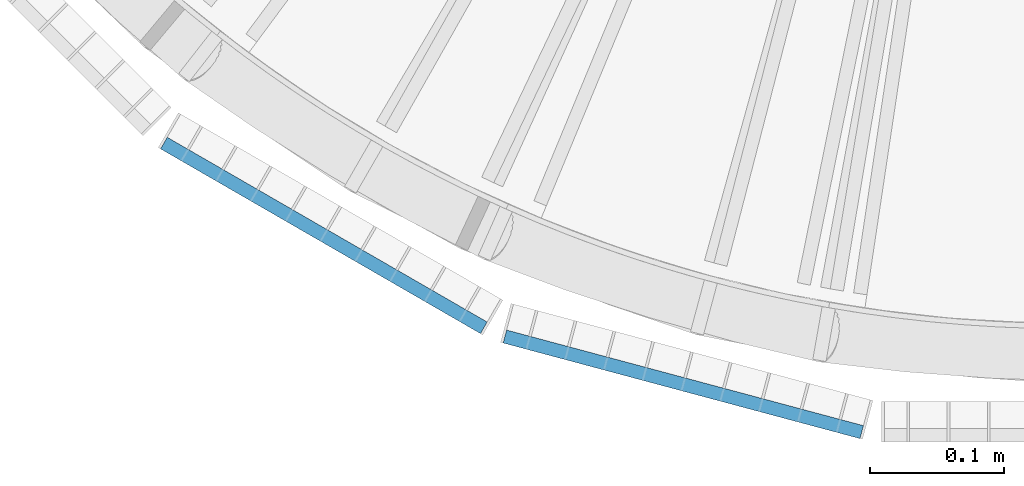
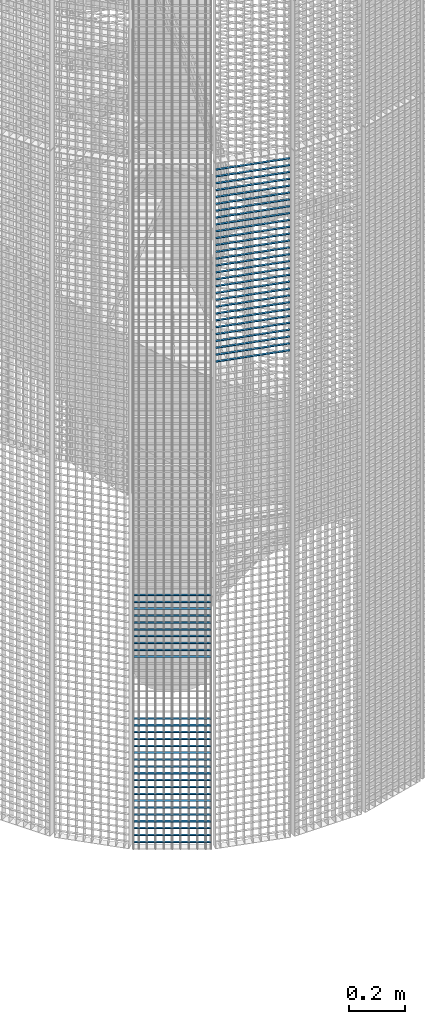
# One storey, part 385 of 1183: 58 beams, 2 elements without a shape of their own.
"""IFC2X3 building model written with IfcOpenShell, lengths in millimetres."""

from ifc_helpers import new_model, si_unit, frame, origin_with_axes, origin_2d_with_axis, place, context, subcontext, project, spatial, rectangle, extrude, material, type_object, element, aggregate, save


model = new_model("IFC2X3")

# Units and contexts
model_context = context("Model", 3, precision=1e-05, world=origin_with_axes())
body_context = subcontext(model_context, "Body", "Model", "MODEL_VIEW")
ifc_project = project(units=[si_unit("LENGTHUNIT", "METRE", prefix="MILLI"), si_unit("AREAUNIT", "SQUARE_METRE"), si_unit("VOLUMEUNIT", "CUBIC_METRE"), si_unit("MASSUNIT", "GRAM", prefix="KILO"), si_unit("TIMEUNIT", "SECOND"), si_unit("PLANEANGLEUNIT", "RADIAN"), si_unit("SOLIDANGLEUNIT", "STERADIAN"), si_unit("THERMODYNAMICTEMPERATUREUNIT", "DEGREE_CELSIUS"), si_unit("LUMINOUSINTENSITYUNIT", "LUMEN")], contexts=[model_context])

# Site, building, storey
site_placement = place(None, origin_with_axes())
site = spatial("IfcSite", under=ifc_project, at=site_placement, Name="Undefined", CompositionType="ELEMENT")
building_placement = place(site_placement, origin_with_axes())
building = spatial("IfcBuilding", under=site, at=building_placement, Name="Undefined", CompositionType="ELEMENT")
storey_placement = place(building_placement, origin_with_axes())
storey = spatial("IfcBuildingStorey", under=building, at=storey_placement, Name="Undefined", CompositionType="ELEMENT", Elevation=0.0)

# Assembly, beams
assembly_1_placement = place(storey_placement, origin_with_axes())
assembly_1 = element("IfcElementAssembly", 1, at=assembly_1_placement, inside=storey, Name="BORDURE", AssemblyPlace="NOTDEFINED", PredefinedType="NOTDEFINED")
ifc_material = material(Name="STEEL/S235JR")
beam_type = type_object("IfcBeamType", Name="PL2*10", PredefinedType="NOTDEFINED")
beam_1_placement = place(assembly_1_placement, frame((21162.7680445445, -1033.29996828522, 569.999999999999), z_axis=(-0.49999999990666, -0.866025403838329, 0.0), x_axis=(-0.866025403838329, 0.499999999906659, 0.0)))
beam_1 = element("IfcBeam", 2, at=beam_1_placement, type_object=beam_type, material=ifc_material, Name="ENTRETOISE", context=body_context, shape_type="SweptSolid", body=[
    extrude(rectangle(XDim=2.0, YDim=10.0, at=origin_2d_with_axis()), frame((275.999999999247, 9.09494701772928e-13, 1.53210777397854e-14), z_axis=(-1.0, 0.0, 0.0), x_axis=(0.0, -1.0, 0.0)), (0.0, 0.0, 1.0), 276.0),
])
beam_2_placement = place(assembly_1_placement, frame((21162.7680445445, -1033.29996828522, 539.999999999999), z_axis=(-0.49999999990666, -0.866025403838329, 0.0), x_axis=(-0.866025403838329, 0.499999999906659, 0.0)))
beam_2 = element("IfcBeam", 3, at=beam_2_placement, type_object=beam_type, material=ifc_material, Name="ENTRETOISE", context=body_context, shape_type="SweptSolid", body=[
    extrude(rectangle(XDim=2.0, YDim=10.0, at=origin_2d_with_axis()), frame((275.999999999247, 9.09494701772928e-13, 1.53210777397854e-14), z_axis=(-1.0, 0.0, 0.0), x_axis=(0.0, -1.0, 0.0)), (0.0, 0.0, 1.0), 276.0),
])
beam_3_placement = place(assembly_1_placement, frame((21162.7680445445, -1033.29996828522, 839.999999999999), z_axis=(-0.49999999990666, -0.866025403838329, 0.0), x_axis=(-0.866025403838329, 0.499999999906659, 0.0)))
beam_3 = element("IfcBeam", 4, at=beam_3_placement, type_object=beam_type, material=ifc_material, Name="ENTRETOISE", context=body_context, shape_type="SweptSolid", body=[
    extrude(rectangle(XDim=2.0, YDim=10.0, at=origin_2d_with_axis()), frame((275.999999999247, 9.09494701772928e-13, 1.53210777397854e-14), z_axis=(-1.0, 0.0, 0.0), x_axis=(0.0, -1.0, 0.0)), (0.0, 0.0, 1.0), 276.0),
])
beam_4_placement = place(assembly_1_placement, frame((21162.7680445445, -1033.29996828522, 509.999999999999), z_axis=(-0.49999999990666, -0.866025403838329, 0.0), x_axis=(-0.866025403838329, 0.499999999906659, 0.0)))
beam_4 = element("IfcBeam", 5, at=beam_4_placement, type_object=beam_type, material=ifc_material, Name="ENTRETOISE", context=body_context, shape_type="SweptSolid", body=[
    extrude(rectangle(XDim=2.0, YDim=10.0, at=origin_2d_with_axis()), frame((275.999999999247, 9.09494701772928e-13, 1.53210777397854e-14), z_axis=(-1.0, 0.0, 0.0), x_axis=(0.0, -1.0, 0.0)), (0.0, 0.0, 1.0), 276.0),
])
beam_5_placement = place(assembly_1_placement, frame((21162.7680445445, -1033.29996828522, 479.999999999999), z_axis=(-0.49999999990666, -0.866025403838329, 0.0), x_axis=(-0.866025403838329, 0.499999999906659, 0.0)))
beam_5 = element("IfcBeam", 6, at=beam_5_placement, type_object=beam_type, material=ifc_material, Name="ENTRETOISE", context=body_context, shape_type="SweptSolid", body=[
    extrude(rectangle(XDim=2.0, YDim=10.0, at=origin_2d_with_axis()), frame((275.999999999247, 9.09494701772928e-13, 1.53210777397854e-14), z_axis=(-1.0, 0.0, 0.0), x_axis=(0.0, -1.0, 0.0)), (0.0, 0.0, 1.0), 276.0),
])
beam_6_placement = place(assembly_1_placement, frame((21162.7680445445, -1033.29996828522, 869.999999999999), z_axis=(-0.49999999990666, -0.866025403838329, 0.0), x_axis=(-0.866025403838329, 0.499999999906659, 0.0)))
beam_6 = element("IfcBeam", 7, at=beam_6_placement, type_object=beam_type, material=ifc_material, Name="ENTRETOISE", context=body_context, shape_type="SweptSolid", body=[
    extrude(rectangle(XDim=2.0, YDim=10.0, at=origin_2d_with_axis()), frame((275.999999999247, 9.09494701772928e-13, 1.53210777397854e-14), z_axis=(-1.0, 0.0, 0.0), x_axis=(0.0, -1.0, 0.0)), (0.0, 0.0, 1.0), 276.0),
])
beam_7_placement = place(assembly_1_placement, frame((21162.7680445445, -1033.29996828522, 449.999999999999), z_axis=(-0.49999999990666, -0.866025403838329, 0.0), x_axis=(-0.866025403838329, 0.499999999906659, 0.0)))
beam_7 = element("IfcBeam", 8, at=beam_7_placement, type_object=beam_type, material=ifc_material, Name="ENTRETOISE", context=body_context, shape_type="SweptSolid", body=[
    extrude(rectangle(XDim=2.0, YDim=10.0, at=origin_2d_with_axis()), frame((275.999999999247, 9.09494701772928e-13, 1.53210777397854e-14), z_axis=(-1.0, 0.0, 0.0), x_axis=(0.0, -1.0, 0.0)), (0.0, 0.0, 1.0), 276.0),
])
beam_8_placement = place(assembly_1_placement, frame((21162.7680445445, -1033.29996828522, 419.999999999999), z_axis=(-0.49999999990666, -0.866025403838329, 0.0), x_axis=(-0.866025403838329, 0.499999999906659, 0.0)))
beam_8 = element("IfcBeam", 9, at=beam_8_placement, type_object=beam_type, material=ifc_material, Name="ENTRETOISE", context=body_context, shape_type="SweptSolid", body=[
    extrude(rectangle(XDim=2.0, YDim=10.0, at=origin_2d_with_axis()), frame((275.999999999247, 9.09494701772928e-13, 1.53210777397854e-14), z_axis=(-1.0, 0.0, 0.0), x_axis=(0.0, -1.0, 0.0)), (0.0, 0.0, 1.0), 276.0),
])
beam_9_placement = place(assembly_1_placement, frame((21162.7680445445, -1033.29996828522, 899.999999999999), z_axis=(-0.49999999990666, -0.866025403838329, 0.0), x_axis=(-0.866025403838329, 0.499999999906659, 0.0)))
beam_9 = element("IfcBeam", 10, at=beam_9_placement, type_object=beam_type, material=ifc_material, Name="ENTRETOISE", context=body_context, shape_type="SweptSolid", body=[
    extrude(rectangle(XDim=2.0, YDim=10.0, at=origin_2d_with_axis()), frame((275.999999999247, 9.09494701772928e-13, 1.53210777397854e-14), z_axis=(-1.0, 0.0, 0.0), x_axis=(0.0, -1.0, 0.0)), (0.0, 0.0, 1.0), 276.0),
])
beam_10_placement = place(assembly_1_placement, frame((21162.7680445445, -1033.29996828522, 389.999999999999), z_axis=(-0.49999999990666, -0.866025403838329, 0.0), x_axis=(-0.866025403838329, 0.499999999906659, 0.0)))
beam_10 = element("IfcBeam", 11, at=beam_10_placement, type_object=beam_type, material=ifc_material, Name="ENTRETOISE", context=body_context, shape_type="SweptSolid", body=[
    extrude(rectangle(XDim=2.0, YDim=10.0, at=origin_2d_with_axis()), frame((275.999999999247, 9.09494701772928e-13, 1.53210777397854e-14), z_axis=(-1.0, 0.0, 0.0), x_axis=(0.0, -1.0, 0.0)), (0.0, 0.0, 1.0), 276.0),
])
beam_11_placement = place(assembly_1_placement, frame((21162.7680445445, -1033.29996828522, 929.999999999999), z_axis=(-0.49999999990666, -0.866025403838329, 0.0), x_axis=(-0.866025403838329, 0.499999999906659, 0.0)))
beam_11 = element("IfcBeam", 12, at=beam_11_placement, type_object=beam_type, material=ifc_material, Name="ENTRETOISE", context=body_context, shape_type="SweptSolid", body=[
    extrude(rectangle(XDim=2.0, YDim=10.0, at=origin_2d_with_axis()), frame((275.999999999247, 9.09494701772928e-13, 1.53210777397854e-14), z_axis=(-1.0, 0.0, 0.0), x_axis=(0.0, -1.0, 0.0)), (0.0, 0.0, 1.0), 276.0),
])
beam_12_placement = place(assembly_1_placement, frame((21162.7680445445, -1033.29996828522, 359.999999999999), z_axis=(-0.49999999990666, -0.866025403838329, 0.0), x_axis=(-0.866025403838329, 0.499999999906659, 0.0)))
beam_12 = element("IfcBeam", 13, at=beam_12_placement, type_object=beam_type, material=ifc_material, Name="ENTRETOISE", context=body_context, shape_type="SweptSolid", body=[
    extrude(rectangle(XDim=2.0, YDim=10.0, at=origin_2d_with_axis()), frame((275.999999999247, 9.09494701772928e-13, 1.53210777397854e-14), z_axis=(-1.0, 0.0, 0.0), x_axis=(0.0, -1.0, 0.0)), (0.0, 0.0, 1.0), 276.0),
])
beam_13_placement = place(assembly_1_placement, frame((21162.7680445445, -1033.29996828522, 329.999999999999), z_axis=(-0.49999999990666, -0.866025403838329, 0.0), x_axis=(-0.866025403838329, 0.499999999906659, 0.0)))
beam_13 = element("IfcBeam", 14, at=beam_13_placement, type_object=beam_type, material=ifc_material, Name="ENTRETOISE", context=body_context, shape_type="SweptSolid", body=[
    extrude(rectangle(XDim=2.0, YDim=10.0, at=origin_2d_with_axis()), frame((275.999999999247, 9.09494701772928e-13, 1.53210777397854e-14), z_axis=(-1.0, 0.0, 0.0), x_axis=(0.0, -1.0, 0.0)), (0.0, 0.0, 1.0), 276.0),
])
beam_14_placement = place(assembly_1_placement, frame((21162.7680445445, -1033.29996828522, 959.999999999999), z_axis=(-0.49999999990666, -0.866025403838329, 0.0), x_axis=(-0.866025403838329, 0.499999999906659, 0.0)))
beam_14 = element("IfcBeam", 15, at=beam_14_placement, type_object=beam_type, material=ifc_material, Name="ENTRETOISE", context=body_context, shape_type="SweptSolid", body=[
    extrude(rectangle(XDim=2.0, YDim=10.0, at=origin_2d_with_axis()), frame((275.999999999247, 9.09494701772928e-13, 1.53210777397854e-14), z_axis=(-1.0, 0.0, 0.0), x_axis=(0.0, -1.0, 0.0)), (0.0, 0.0, 1.0), 276.0),
])
beam_15_placement = place(assembly_1_placement, frame((21162.7680445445, -1033.29996828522, 299.999999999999), z_axis=(-0.49999999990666, -0.866025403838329, 0.0), x_axis=(-0.866025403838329, 0.499999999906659, 0.0)))
beam_15 = element("IfcBeam", 16, at=beam_15_placement, type_object=beam_type, material=ifc_material, Name="ENTRETOISE", context=body_context, shape_type="SweptSolid", body=[
    extrude(rectangle(XDim=2.0, YDim=10.0, at=origin_2d_with_axis()), frame((275.999999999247, 9.09494701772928e-13, 1.53210777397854e-14), z_axis=(-1.0, 0.0, 0.0), x_axis=(0.0, -1.0, 0.0)), (0.0, 0.0, 1.0), 276.0),
])
beam_16_placement = place(assembly_1_placement, frame((21162.7680445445, -1033.29996828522, 269.999999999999), z_axis=(-0.49999999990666, -0.866025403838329, 0.0), x_axis=(-0.866025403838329, 0.499999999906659, 0.0)))
beam_16 = element("IfcBeam", 17, at=beam_16_placement, type_object=beam_type, material=ifc_material, Name="ENTRETOISE", context=body_context, shape_type="SweptSolid", body=[
    extrude(rectangle(XDim=2.0, YDim=10.0, at=origin_2d_with_axis()), frame((275.999999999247, 9.09494701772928e-13, 1.53210777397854e-14), z_axis=(-1.0, 0.0, 0.0), x_axis=(0.0, -1.0, 0.0)), (0.0, 0.0, 1.0), 276.0),
])
beam_17_placement = place(assembly_1_placement, frame((21162.7680445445, -1033.29996828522, 989.999999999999), z_axis=(-0.49999999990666, -0.866025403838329, 0.0), x_axis=(-0.866025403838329, 0.499999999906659, 0.0)))
beam_17 = element("IfcBeam", 18, at=beam_17_placement, type_object=beam_type, material=ifc_material, Name="ENTRETOISE", context=body_context, shape_type="SweptSolid", body=[
    extrude(rectangle(XDim=2.0, YDim=10.0, at=origin_2d_with_axis()), frame((275.999999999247, 9.09494701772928e-13, 1.53210777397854e-14), z_axis=(-1.0, 0.0, 0.0), x_axis=(0.0, -1.0, 0.0)), (0.0, 0.0, 1.0), 276.0),
])
beam_18_placement = place(assembly_1_placement, frame((21162.7680445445, -1033.29996828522, 239.999999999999), z_axis=(-0.49999999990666, -0.866025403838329, 0.0), x_axis=(-0.866025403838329, 0.499999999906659, 0.0)))
beam_18 = element("IfcBeam", 19, at=beam_18_placement, type_object=beam_type, material=ifc_material, Name="ENTRETOISE", context=body_context, shape_type="SweptSolid", body=[
    extrude(rectangle(XDim=2.0, YDim=10.0, at=origin_2d_with_axis()), frame((275.999999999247, 9.09494701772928e-13, 1.53210777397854e-14), z_axis=(-1.0, 0.0, 0.0), x_axis=(0.0, -1.0, 0.0)), (0.0, 0.0, 1.0), 276.0),
])
beam_19_placement = place(assembly_1_placement, frame((21162.7680445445, -1033.29996828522, 1020.0), z_axis=(-0.49999999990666, -0.866025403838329, 0.0), x_axis=(-0.866025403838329, 0.499999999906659, 0.0)))
beam_19 = element("IfcBeam", 20, at=beam_19_placement, type_object=beam_type, material=ifc_material, Name="ENTRETOISE", context=body_context, shape_type="SweptSolid", body=[
    extrude(rectangle(XDim=2.0, YDim=10.0, at=origin_2d_with_axis()), frame((275.999999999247, 9.09494701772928e-13, 1.53210777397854e-14), z_axis=(-1.0, 0.0, 0.0), x_axis=(0.0, -1.0, 0.0)), (0.0, 0.0, 1.0), 276.0),
])
beam_20_placement = place(assembly_1_placement, frame((21162.7680445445, -1033.29996828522, 209.999999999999), z_axis=(-0.49999999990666, -0.866025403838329, 0.0), x_axis=(-0.866025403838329, 0.499999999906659, 0.0)))
beam_20 = element("IfcBeam", 21, at=beam_20_placement, type_object=beam_type, material=ifc_material, Name="ENTRETOISE", context=body_context, shape_type="SweptSolid", body=[
    extrude(rectangle(XDim=2.0, YDim=10.0, at=origin_2d_with_axis()), frame((275.999999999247, 9.09494701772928e-13, 1.53210777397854e-14), z_axis=(-1.0, 0.0, 0.0), x_axis=(0.0, -1.0, 0.0)), (0.0, 0.0, 1.0), 276.0),
])
beam_21_placement = place(assembly_1_placement, frame((21162.7680445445, -1033.29996828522, 179.999999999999), z_axis=(-0.49999999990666, -0.866025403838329, 0.0), x_axis=(-0.866025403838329, 0.499999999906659, 0.0)))
beam_21 = element("IfcBeam", 22, at=beam_21_placement, type_object=beam_type, material=ifc_material, Name="ENTRETOISE", context=body_context, shape_type="SweptSolid", body=[
    extrude(rectangle(XDim=2.0, YDim=10.0, at=origin_2d_with_axis()), frame((275.999999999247, 9.09494701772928e-13, 1.53210777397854e-14), z_axis=(-1.0, 0.0, 0.0), x_axis=(0.0, -1.0, 0.0)), (0.0, 0.0, 1.0), 276.0),
])
beam_22_placement = place(assembly_1_placement, frame((21162.7680445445, -1033.29996828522, 1050.0), z_axis=(-0.49999999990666, -0.866025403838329, 0.0), x_axis=(-0.866025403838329, 0.499999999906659, 0.0)))
beam_22 = element("IfcBeam", 23, at=beam_22_placement, type_object=beam_type, material=ifc_material, Name="ENTRETOISE", context=body_context, shape_type="SweptSolid", body=[
    extrude(rectangle(XDim=2.0, YDim=10.0, at=origin_2d_with_axis()), frame((275.999999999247, 9.09494701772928e-13, 1.53210777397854e-14), z_axis=(-1.0, 0.0, 0.0), x_axis=(0.0, -1.0, 0.0)), (0.0, 0.0, 1.0), 276.0),
])
beam_23_placement = place(assembly_1_placement, frame((21162.7680445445, -1033.29996828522, 149.999999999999), z_axis=(-0.49999999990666, -0.866025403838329, 0.0), x_axis=(-0.866025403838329, 0.499999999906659, 0.0)))
beam_23 = element("IfcBeam", 24, at=beam_23_placement, type_object=beam_type, material=ifc_material, Name="ENTRETOISE", context=body_context, shape_type="SweptSolid", body=[
    extrude(rectangle(XDim=2.0, YDim=10.0, at=origin_2d_with_axis()), frame((275.999999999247, 9.09494701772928e-13, 1.53210777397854e-14), z_axis=(-1.0, 0.0, 0.0), x_axis=(0.0, -1.0, 0.0)), (0.0, 0.0, 1.0), 276.0),
])
beam_24_placement = place(assembly_1_placement, frame((21162.7680445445, -1033.29996828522, 119.999999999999), z_axis=(-0.49999999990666, -0.866025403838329, 0.0), x_axis=(-0.866025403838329, 0.499999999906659, 0.0)))
beam_24 = element("IfcBeam", 25, at=beam_24_placement, type_object=beam_type, material=ifc_material, Name="ENTRETOISE", context=body_context, shape_type="SweptSolid", body=[
    extrude(rectangle(XDim=2.0, YDim=10.0, at=origin_2d_with_axis()), frame((275.999999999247, 9.09494701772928e-13, 1.53210777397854e-14), z_axis=(-1.0, 0.0, 0.0), x_axis=(0.0, -1.0, 0.0)), (0.0, 0.0, 1.0), 276.0),
])
beam_25_placement = place(assembly_1_placement, frame((21162.7680445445, -1033.29996828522, 1080.0), z_axis=(-0.49999999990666, -0.866025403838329, 0.0), x_axis=(-0.866025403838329, 0.499999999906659, 0.0)))
beam_25 = element("IfcBeam", 26, at=beam_25_placement, type_object=beam_type, material=ifc_material, Name="ENTRETOISE", context=body_context, shape_type="SweptSolid", body=[
    extrude(rectangle(XDim=2.0, YDim=10.0, at=origin_2d_with_axis()), frame((275.999999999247, 9.09494701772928e-13, 1.53210777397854e-14), z_axis=(-1.0, 0.0, 0.0), x_axis=(0.0, -1.0, 0.0)), (0.0, 0.0, 1.0), 276.0),
])
beam_26_placement = place(assembly_1_placement, frame((21162.7680445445, -1033.29996828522, 89.9999999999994), z_axis=(-0.49999999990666, -0.866025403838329, 0.0), x_axis=(-0.866025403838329, 0.499999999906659, 0.0)))
beam_26 = element("IfcBeam", 27, at=beam_26_placement, type_object=beam_type, material=ifc_material, Name="ENTRETOISE", context=body_context, shape_type="SweptSolid", body=[
    extrude(rectangle(XDim=2.0, YDim=10.0, at=origin_2d_with_axis()), frame((275.999999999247, 9.09494701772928e-13, 1.53210777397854e-14), z_axis=(-1.0, 0.0, 0.0), x_axis=(0.0, -1.0, 0.0)), (0.0, 0.0, 1.0), 276.0),
])
beam_27_placement = place(assembly_1_placement, frame((21162.7680445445, -1033.29996828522, 59.9999999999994), z_axis=(-0.49999999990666, -0.866025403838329, 0.0), x_axis=(-0.866025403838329, 0.499999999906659, 0.0)))
beam_27 = element("IfcBeam", 28, at=beam_27_placement, type_object=beam_type, material=ifc_material, Name="ENTRETOISE", context=body_context, shape_type="SweptSolid", body=[
    extrude(rectangle(XDim=2.0, YDim=10.0, at=origin_2d_with_axis()), frame((275.999999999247, 9.09494701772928e-13, 1.53210777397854e-14), z_axis=(-1.0, 0.0, 0.0), x_axis=(0.0, -1.0, 0.0)), (0.0, 0.0, 1.0), 276.0),
])
beam_28_placement = place(assembly_1_placement, frame((21162.7680445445, -1033.29996828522, 1110.0), z_axis=(-0.49999999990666, -0.866025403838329, 0.0), x_axis=(-0.866025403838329, 0.499999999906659, 0.0)))
beam_28 = element("IfcBeam", 29, at=beam_28_placement, type_object=beam_type, material=ifc_material, Name="ENTRETOISE", context=body_context, shape_type="SweptSolid", body=[
    extrude(rectangle(XDim=2.0, YDim=10.0, at=origin_2d_with_axis()), frame((275.999999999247, 9.09494701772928e-13, 1.53210777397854e-14), z_axis=(-1.0, 0.0, 0.0), x_axis=(0.0, -1.0, 0.0)), (0.0, 0.0, 1.0), 276.0),
])
beam_29_placement = place(assembly_1_placement, frame((21162.7680445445, -1033.29996828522, 29.9999999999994), z_axis=(-0.49999999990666, -0.866025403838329, 0.0), x_axis=(-0.866025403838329, 0.499999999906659, 0.0)))
beam_29 = element("IfcBeam", 30, at=beam_29_placement, type_object=beam_type, material=ifc_material, Name="ENTRETOISE", context=body_context, shape_type="SweptSolid", body=[
    extrude(rectangle(XDim=2.0, YDim=10.0, at=origin_2d_with_axis()), frame((275.999999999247, 9.09494701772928e-13, 1.53210777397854e-14), z_axis=(-1.0, 0.0, 0.0), x_axis=(0.0, -1.0, 0.0)), (0.0, 0.0, 1.0), 276.0),
])
aggregate(assembly_1, [beam_1, beam_2, beam_3, beam_4, beam_5, beam_6, beam_7, beam_8, beam_9, beam_10, beam_11, beam_12, beam_13, beam_14, beam_15, beam_16, beam_17, beam_18, beam_19, beam_20, beam_21, beam_22, beam_23, beam_24, beam_25, beam_26, beam_27, beam_28, beam_29])

assembly_2_placement = place(storey_placement, origin_with_axes())
assembly_2 = element("IfcElementAssembly", 31, at=assembly_2_placement, inside=storey, Name="BORDURE", AssemblyPlace="NOTDEFINED", PredefinedType="NOTDEFINED")
beam_30_placement = place(assembly_2_placement, frame((21445.1040732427, -1111.25508286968, 2970.0), z_axis=(-0.258819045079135, -0.965925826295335, 0.0), x_axis=(-0.965925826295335, 0.258819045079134, 0.0)))
beam_30 = element("IfcBeam", 32, at=beam_30_placement, type_object=beam_type, material=ifc_material, Name="ENTRETOISE", context=body_context, shape_type="SweptSolid", body=[
    extrude(rectangle(XDim=2.0, YDim=10.0, at=origin_2d_with_axis()), frame((275.999999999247, 9.09494701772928e-13, 1.53210777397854e-14), z_axis=(-1.0, 0.0, 0.0), x_axis=(0.0, -1.0, 0.0)), (0.0, 0.0, 1.0), 276.0),
])
beam_31_placement = place(assembly_2_placement, frame((21445.1040732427, -1111.25508286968, 2940.0), z_axis=(-0.258819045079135, -0.965925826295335, 0.0), x_axis=(-0.965925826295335, 0.258819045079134, 0.0)))
beam_31 = element("IfcBeam", 33, at=beam_31_placement, type_object=beam_type, material=ifc_material, Name="ENTRETOISE", context=body_context, shape_type="SweptSolid", body=[
    extrude(rectangle(XDim=2.0, YDim=10.0, at=origin_2d_with_axis()), frame((275.999999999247, 9.09494701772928e-13, 1.53210777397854e-14), z_axis=(-1.0, 0.0, 0.0), x_axis=(0.0, -1.0, 0.0)), (0.0, 0.0, 1.0), 276.0),
])
beam_32_placement = place(assembly_2_placement, frame((21445.1040732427, -1111.25508286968, 2910.0), z_axis=(-0.258819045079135, -0.965925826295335, 0.0), x_axis=(-0.965925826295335, 0.258819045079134, 0.0)))
beam_32 = element("IfcBeam", 34, at=beam_32_placement, type_object=beam_type, material=ifc_material, Name="ENTRETOISE", context=body_context, shape_type="SweptSolid", body=[
    extrude(rectangle(XDim=2.0, YDim=10.0, at=origin_2d_with_axis()), frame((275.999999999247, 9.09494701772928e-13, 1.53210777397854e-14), z_axis=(-1.0, 0.0, 0.0), x_axis=(0.0, -1.0, 0.0)), (0.0, 0.0, 1.0), 276.0),
])
beam_33_placement = place(assembly_2_placement, frame((21445.1040732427, -1111.25508286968, 2880.0), z_axis=(-0.258819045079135, -0.965925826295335, 0.0), x_axis=(-0.965925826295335, 0.258819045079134, 0.0)))
beam_33 = element("IfcBeam", 35, at=beam_33_placement, type_object=beam_type, material=ifc_material, Name="ENTRETOISE", context=body_context, shape_type="SweptSolid", body=[
    extrude(rectangle(XDim=2.0, YDim=10.0, at=origin_2d_with_axis()), frame((275.999999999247, 9.09494701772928e-13, 1.53210777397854e-14), z_axis=(-1.0, 0.0, 0.0), x_axis=(0.0, -1.0, 0.0)), (0.0, 0.0, 1.0), 276.0),
])
beam_34_placement = place(assembly_2_placement, frame((21445.1040732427, -1111.25508286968, 2850.0), z_axis=(-0.258819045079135, -0.965925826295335, 0.0), x_axis=(-0.965925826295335, 0.258819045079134, 0.0)))
beam_34 = element("IfcBeam", 36, at=beam_34_placement, type_object=beam_type, material=ifc_material, Name="ENTRETOISE", context=body_context, shape_type="SweptSolid", body=[
    extrude(rectangle(XDim=2.0, YDim=10.0, at=origin_2d_with_axis()), frame((275.999999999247, 9.09494701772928e-13, 1.53210777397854e-14), z_axis=(-1.0, 0.0, 0.0), x_axis=(0.0, -1.0, 0.0)), (0.0, 0.0, 1.0), 276.0),
])
beam_35_placement = place(assembly_2_placement, frame((21445.1040732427, -1111.25508286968, 2820.0), z_axis=(-0.258819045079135, -0.965925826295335, 0.0), x_axis=(-0.965925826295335, 0.258819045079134, 0.0)))
beam_35 = element("IfcBeam", 37, at=beam_35_placement, type_object=beam_type, material=ifc_material, Name="ENTRETOISE", context=body_context, shape_type="SweptSolid", body=[
    extrude(rectangle(XDim=2.0, YDim=10.0, at=origin_2d_with_axis()), frame((275.999999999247, 9.09494701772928e-13, 1.53210777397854e-14), z_axis=(-1.0, 0.0, 0.0), x_axis=(0.0, -1.0, 0.0)), (0.0, 0.0, 1.0), 276.0),
])
beam_36_placement = place(assembly_2_placement, frame((21445.1040732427, -1111.25508286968, 2790.0), z_axis=(-0.258819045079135, -0.965925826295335, 0.0), x_axis=(-0.965925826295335, 0.258819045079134, 0.0)))
beam_36 = element("IfcBeam", 38, at=beam_36_placement, type_object=beam_type, material=ifc_material, Name="ENTRETOISE", context=body_context, shape_type="SweptSolid", body=[
    extrude(rectangle(XDim=2.0, YDim=10.0, at=origin_2d_with_axis()), frame((275.999999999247, 9.09494701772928e-13, 1.53210777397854e-14), z_axis=(-1.0, 0.0, 0.0), x_axis=(0.0, -1.0, 0.0)), (0.0, 0.0, 1.0), 276.0),
])
beam_37_placement = place(assembly_2_placement, frame((21445.1040732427, -1111.25508286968, 2760.0), z_axis=(-0.258819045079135, -0.965925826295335, 0.0), x_axis=(-0.965925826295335, 0.258819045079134, 0.0)))
beam_37 = element("IfcBeam", 39, at=beam_37_placement, type_object=beam_type, material=ifc_material, Name="ENTRETOISE", context=body_context, shape_type="SweptSolid", body=[
    extrude(rectangle(XDim=2.0, YDim=10.0, at=origin_2d_with_axis()), frame((275.999999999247, 9.09494701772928e-13, 1.53210777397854e-14), z_axis=(-1.0, 0.0, 0.0), x_axis=(0.0, -1.0, 0.0)), (0.0, 0.0, 1.0), 276.0),
])
beam_38_placement = place(assembly_2_placement, frame((21445.1040732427, -1111.25508286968, 2730.0), z_axis=(-0.258819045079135, -0.965925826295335, 0.0), x_axis=(-0.965925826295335, 0.258819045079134, 0.0)))
beam_38 = element("IfcBeam", 40, at=beam_38_placement, type_object=beam_type, material=ifc_material, Name="ENTRETOISE", context=body_context, shape_type="SweptSolid", body=[
    extrude(rectangle(XDim=2.0, YDim=10.0, at=origin_2d_with_axis()), frame((275.999999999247, 9.09494701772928e-13, 1.53210777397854e-14), z_axis=(-1.0, 0.0, 0.0), x_axis=(0.0, -1.0, 0.0)), (0.0, 0.0, 1.0), 276.0),
])
beam_39_placement = place(assembly_2_placement, frame((21445.1040732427, -1111.25508286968, 2700.0), z_axis=(-0.258819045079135, -0.965925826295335, 0.0), x_axis=(-0.965925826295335, 0.258819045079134, 0.0)))
beam_39 = element("IfcBeam", 41, at=beam_39_placement, type_object=beam_type, material=ifc_material, Name="ENTRETOISE", context=body_context, shape_type="SweptSolid", body=[
    extrude(rectangle(XDim=2.0, YDim=10.0, at=origin_2d_with_axis()), frame((275.999999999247, 9.09494701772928e-13, 1.53210777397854e-14), z_axis=(-1.0, 0.0, 0.0), x_axis=(0.0, -1.0, 0.0)), (0.0, 0.0, 1.0), 276.0),
])
beam_40_placement = place(assembly_2_placement, frame((21445.1040732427, -1111.25508286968, 2670.0), z_axis=(-0.258819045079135, -0.965925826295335, 0.0), x_axis=(-0.965925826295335, 0.258819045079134, 0.0)))
beam_40 = element("IfcBeam", 42, at=beam_40_placement, type_object=beam_type, material=ifc_material, Name="ENTRETOISE", context=body_context, shape_type="SweptSolid", body=[
    extrude(rectangle(XDim=2.0, YDim=10.0, at=origin_2d_with_axis()), frame((275.999999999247, 9.09494701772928e-13, 1.53210777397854e-14), z_axis=(-1.0, 0.0, 0.0), x_axis=(0.0, -1.0, 0.0)), (0.0, 0.0, 1.0), 276.0),
])
beam_41_placement = place(assembly_2_placement, frame((21445.1040732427, -1111.25508286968, 2640.0), z_axis=(-0.258819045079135, -0.965925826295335, 0.0), x_axis=(-0.965925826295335, 0.258819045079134, 0.0)))
beam_41 = element("IfcBeam", 43, at=beam_41_placement, type_object=beam_type, material=ifc_material, Name="ENTRETOISE", context=body_context, shape_type="SweptSolid", body=[
    extrude(rectangle(XDim=2.0, YDim=10.0, at=origin_2d_with_axis()), frame((275.999999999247, 9.09494701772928e-13, 1.53210777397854e-14), z_axis=(-1.0, 0.0, 0.0), x_axis=(0.0, -1.0, 0.0)), (0.0, 0.0, 1.0), 276.0),
])
beam_42_placement = place(assembly_2_placement, frame((21445.1040732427, -1111.25508286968, 2610.0), z_axis=(-0.258819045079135, -0.965925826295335, 0.0), x_axis=(-0.965925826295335, 0.258819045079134, 0.0)))
beam_42 = element("IfcBeam", 44, at=beam_42_placement, type_object=beam_type, material=ifc_material, Name="ENTRETOISE", context=body_context, shape_type="SweptSolid", body=[
    extrude(rectangle(XDim=2.0, YDim=10.0, at=origin_2d_with_axis()), frame((275.999999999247, 9.09494701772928e-13, 1.53210777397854e-14), z_axis=(-1.0, 0.0, 0.0), x_axis=(0.0, -1.0, 0.0)), (0.0, 0.0, 1.0), 276.0),
])
beam_43_placement = place(assembly_2_placement, frame((21445.1040732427, -1111.25508286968, 2580.0), z_axis=(-0.258819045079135, -0.965925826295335, 0.0), x_axis=(-0.965925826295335, 0.258819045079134, 0.0)))
beam_43 = element("IfcBeam", 45, at=beam_43_placement, type_object=beam_type, material=ifc_material, Name="ENTRETOISE", context=body_context, shape_type="SweptSolid", body=[
    extrude(rectangle(XDim=2.0, YDim=10.0, at=origin_2d_with_axis()), frame((275.999999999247, 9.09494701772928e-13, 1.53210777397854e-14), z_axis=(-1.0, 0.0, 0.0), x_axis=(0.0, -1.0, 0.0)), (0.0, 0.0, 1.0), 276.0),
])
beam_44_placement = place(assembly_2_placement, frame((21445.1040732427, -1111.25508286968, 2550.0), z_axis=(-0.258819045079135, -0.965925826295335, 0.0), x_axis=(-0.965925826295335, 0.258819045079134, 0.0)))
beam_44 = element("IfcBeam", 46, at=beam_44_placement, type_object=beam_type, material=ifc_material, Name="ENTRETOISE", context=body_context, shape_type="SweptSolid", body=[
    extrude(rectangle(XDim=2.0, YDim=10.0, at=origin_2d_with_axis()), frame((275.999999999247, 9.09494701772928e-13, 1.53210777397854e-14), z_axis=(-1.0, 0.0, 0.0), x_axis=(0.0, -1.0, 0.0)), (0.0, 0.0, 1.0), 276.0),
])
beam_45_placement = place(assembly_2_placement, frame((21445.1040732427, -1111.25508286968, 2520.0), z_axis=(-0.258819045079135, -0.965925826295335, 0.0), x_axis=(-0.965925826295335, 0.258819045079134, 0.0)))
beam_45 = element("IfcBeam", 47, at=beam_45_placement, type_object=beam_type, material=ifc_material, Name="ENTRETOISE", context=body_context, shape_type="SweptSolid", body=[
    extrude(rectangle(XDim=2.0, YDim=10.0, at=origin_2d_with_axis()), frame((275.999999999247, 9.09494701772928e-13, 1.53210777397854e-14), z_axis=(-1.0, 0.0, 0.0), x_axis=(0.0, -1.0, 0.0)), (0.0, 0.0, 1.0), 276.0),
])
beam_46_placement = place(assembly_2_placement, frame((21445.1040732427, -1111.25508286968, 2490.0), z_axis=(-0.258819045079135, -0.965925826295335, 0.0), x_axis=(-0.965925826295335, 0.258819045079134, 0.0)))
beam_46 = element("IfcBeam", 48, at=beam_46_placement, type_object=beam_type, material=ifc_material, Name="ENTRETOISE", context=body_context, shape_type="SweptSolid", body=[
    extrude(rectangle(XDim=2.0, YDim=10.0, at=origin_2d_with_axis()), frame((275.999999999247, 9.09494701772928e-13, 1.53210777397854e-14), z_axis=(-1.0, 0.0, 0.0), x_axis=(0.0, -1.0, 0.0)), (0.0, 0.0, 1.0), 276.0),
])
beam_47_placement = place(assembly_2_placement, frame((21445.1040732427, -1111.25508286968, 2460.0), z_axis=(-0.258819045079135, -0.965925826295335, 0.0), x_axis=(-0.965925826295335, 0.258819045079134, 0.0)))
beam_47 = element("IfcBeam", 49, at=beam_47_placement, type_object=beam_type, material=ifc_material, Name="ENTRETOISE", context=body_context, shape_type="SweptSolid", body=[
    extrude(rectangle(XDim=2.0, YDim=10.0, at=origin_2d_with_axis()), frame((275.999999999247, 9.09494701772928e-13, 1.53210777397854e-14), z_axis=(-1.0, 0.0, 0.0), x_axis=(0.0, -1.0, 0.0)), (0.0, 0.0, 1.0), 276.0),
])
beam_48_placement = place(assembly_2_placement, frame((21445.1040732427, -1111.25508286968, 2430.0), z_axis=(-0.258819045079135, -0.965925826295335, 0.0), x_axis=(-0.965925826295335, 0.258819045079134, 0.0)))
beam_48 = element("IfcBeam", 50, at=beam_48_placement, type_object=beam_type, material=ifc_material, Name="ENTRETOISE", context=body_context, shape_type="SweptSolid", body=[
    extrude(rectangle(XDim=2.0, YDim=10.0, at=origin_2d_with_axis()), frame((275.999999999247, 9.09494701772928e-13, 1.53210777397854e-14), z_axis=(-1.0, 0.0, 0.0), x_axis=(0.0, -1.0, 0.0)), (0.0, 0.0, 1.0), 276.0),
])
beam_49_placement = place(assembly_2_placement, frame((21445.1040732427, -1111.25508286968, 2400.0), z_axis=(-0.258819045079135, -0.965925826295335, 0.0), x_axis=(-0.965925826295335, 0.258819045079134, 0.0)))
beam_49 = element("IfcBeam", 51, at=beam_49_placement, type_object=beam_type, material=ifc_material, Name="ENTRETOISE", context=body_context, shape_type="SweptSolid", body=[
    extrude(rectangle(XDim=2.0, YDim=10.0, at=origin_2d_with_axis()), frame((275.999999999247, 9.09494701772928e-13, 1.53210777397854e-14), z_axis=(-1.0, 0.0, 0.0), x_axis=(0.0, -1.0, 0.0)), (0.0, 0.0, 1.0), 276.0),
])
beam_50_placement = place(assembly_2_placement, frame((21445.1040732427, -1111.25508286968, 2370.0), z_axis=(-0.258819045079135, -0.965925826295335, 0.0), x_axis=(-0.965925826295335, 0.258819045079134, 0.0)))
beam_50 = element("IfcBeam", 52, at=beam_50_placement, type_object=beam_type, material=ifc_material, Name="ENTRETOISE", context=body_context, shape_type="SweptSolid", body=[
    extrude(rectangle(XDim=2.0, YDim=10.0, at=origin_2d_with_axis()), frame((275.999999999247, 9.09494701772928e-13, 1.53210777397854e-14), z_axis=(-1.0, 0.0, 0.0), x_axis=(0.0, -1.0, 0.0)), (0.0, 0.0, 1.0), 276.0),
])
beam_51_placement = place(assembly_2_placement, frame((21445.1040732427, -1111.25508286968, 2340.0), z_axis=(-0.258819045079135, -0.965925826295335, 0.0), x_axis=(-0.965925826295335, 0.258819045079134, 0.0)))
beam_51 = element("IfcBeam", 53, at=beam_51_placement, type_object=beam_type, material=ifc_material, Name="ENTRETOISE", context=body_context, shape_type="SweptSolid", body=[
    extrude(rectangle(XDim=2.0, YDim=10.0, at=origin_2d_with_axis()), frame((275.999999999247, 9.09494701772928e-13, 1.53210777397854e-14), z_axis=(-1.0, 0.0, 0.0), x_axis=(0.0, -1.0, 0.0)), (0.0, 0.0, 1.0), 276.0),
])
beam_52_placement = place(assembly_2_placement, frame((21445.1040732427, -1111.25508286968, 2310.0), z_axis=(-0.258819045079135, -0.965925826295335, 0.0), x_axis=(-0.965925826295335, 0.258819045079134, 0.0)))
beam_52 = element("IfcBeam", 54, at=beam_52_placement, type_object=beam_type, material=ifc_material, Name="ENTRETOISE", context=body_context, shape_type="SweptSolid", body=[
    extrude(rectangle(XDim=2.0, YDim=10.0, at=origin_2d_with_axis()), frame((275.999999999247, 9.09494701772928e-13, 1.53210777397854e-14), z_axis=(-1.0, 0.0, 0.0), x_axis=(0.0, -1.0, 0.0)), (0.0, 0.0, 1.0), 276.0),
])
beam_53_placement = place(assembly_2_placement, frame((21445.1040732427, -1111.25508286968, 2280.0), z_axis=(-0.258819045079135, -0.965925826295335, 0.0), x_axis=(-0.965925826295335, 0.258819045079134, 0.0)))
beam_53 = element("IfcBeam", 55, at=beam_53_placement, type_object=beam_type, material=ifc_material, Name="ENTRETOISE", context=body_context, shape_type="SweptSolid", body=[
    extrude(rectangle(XDim=2.0, YDim=10.0, at=origin_2d_with_axis()), frame((275.999999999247, 9.09494701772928e-13, 1.53210777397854e-14), z_axis=(-1.0, 0.0, 0.0), x_axis=(0.0, -1.0, 0.0)), (0.0, 0.0, 1.0), 276.0),
])
beam_54_placement = place(assembly_2_placement, frame((21445.1040732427, -1111.25508286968, 2250.0), z_axis=(-0.258819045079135, -0.965925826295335, 0.0), x_axis=(-0.965925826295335, 0.258819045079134, 0.0)))
beam_54 = element("IfcBeam", 56, at=beam_54_placement, type_object=beam_type, material=ifc_material, Name="ENTRETOISE", context=body_context, shape_type="SweptSolid", body=[
    extrude(rectangle(XDim=2.0, YDim=10.0, at=origin_2d_with_axis()), frame((275.999999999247, 9.09494701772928e-13, 1.53210777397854e-14), z_axis=(-1.0, 0.0, 0.0), x_axis=(0.0, -1.0, 0.0)), (0.0, 0.0, 1.0), 276.0),
])
beam_55_placement = place(assembly_2_placement, frame((21445.1040732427, -1111.25508286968, 2220.0), z_axis=(-0.258819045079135, -0.965925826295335, 0.0), x_axis=(-0.965925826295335, 0.258819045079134, 0.0)))
beam_55 = element("IfcBeam", 57, at=beam_55_placement, type_object=beam_type, material=ifc_material, Name="ENTRETOISE", context=body_context, shape_type="SweptSolid", body=[
    extrude(rectangle(XDim=2.0, YDim=10.0, at=origin_2d_with_axis()), frame((275.999999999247, 9.09494701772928e-13, 1.53210777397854e-14), z_axis=(-1.0, 0.0, 0.0), x_axis=(0.0, -1.0, 0.0)), (0.0, 0.0, 1.0), 276.0),
])
beam_56_placement = place(assembly_2_placement, frame((21445.1040732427, -1111.25508286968, 2190.0), z_axis=(-0.258819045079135, -0.965925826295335, 0.0), x_axis=(-0.965925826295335, 0.258819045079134, 0.0)))
beam_56 = element("IfcBeam", 58, at=beam_56_placement, type_object=beam_type, material=ifc_material, Name="ENTRETOISE", context=body_context, shape_type="SweptSolid", body=[
    extrude(rectangle(XDim=2.0, YDim=10.0, at=origin_2d_with_axis()), frame((275.999999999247, 9.09494701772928e-13, 1.53210777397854e-14), z_axis=(-1.0, 0.0, 0.0), x_axis=(0.0, -1.0, 0.0)), (0.0, 0.0, 1.0), 276.0),
])
beam_57_placement = place(assembly_2_placement, frame((21445.1040732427, -1111.25508286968, 2160.0), z_axis=(-0.258819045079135, -0.965925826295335, 0.0), x_axis=(-0.965925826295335, 0.258819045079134, 0.0)))
beam_57 = element("IfcBeam", 59, at=beam_57_placement, type_object=beam_type, material=ifc_material, Name="ENTRETOISE", context=body_context, shape_type="SweptSolid", body=[
    extrude(rectangle(XDim=2.0, YDim=10.0, at=origin_2d_with_axis()), frame((275.999999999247, 9.09494701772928e-13, 1.53210777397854e-14), z_axis=(-1.0, 0.0, 0.0), x_axis=(0.0, -1.0, 0.0)), (0.0, 0.0, 1.0), 276.0),
])
beam_58_placement = place(assembly_2_placement, frame((21445.1040732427, -1111.25508286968, 2130.0), z_axis=(-0.258819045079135, -0.965925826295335, 0.0), x_axis=(-0.965925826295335, 0.258819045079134, 0.0)))
beam_58 = element("IfcBeam", 60, at=beam_58_placement, type_object=beam_type, material=ifc_material, Name="ENTRETOISE", context=body_context, shape_type="SweptSolid", body=[
    extrude(rectangle(XDim=2.0, YDim=10.0, at=origin_2d_with_axis()), frame((275.999999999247, 9.09494701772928e-13, 1.53210777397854e-14), z_axis=(-1.0, 0.0, 0.0), x_axis=(0.0, -1.0, 0.0)), (0.0, 0.0, 1.0), 276.0),
])
aggregate(assembly_2, [beam_30, beam_31, beam_32, beam_33, beam_34, beam_35, beam_36, beam_37, beam_38, beam_39, beam_40, beam_41, beam_42, beam_43, beam_44, beam_45, beam_46, beam_47, beam_48, beam_49, beam_50, beam_51, beam_52, beam_53, beam_54, beam_55, beam_56, beam_57, beam_58])

save(model, "model.ifc")
